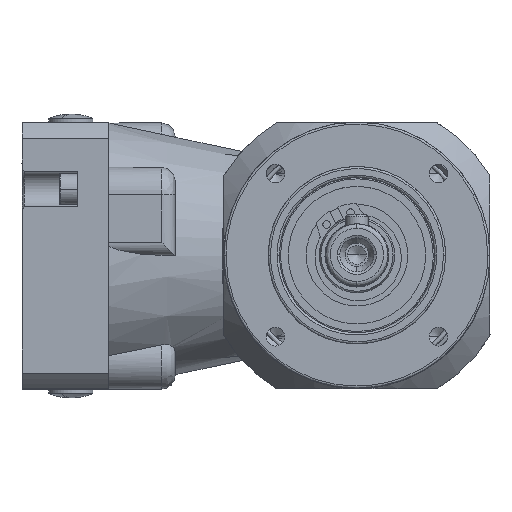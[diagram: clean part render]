
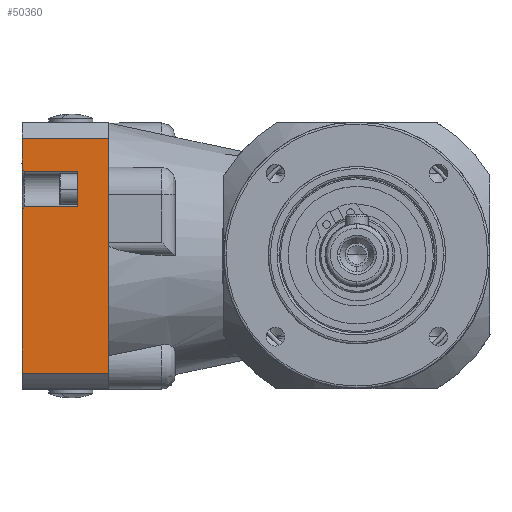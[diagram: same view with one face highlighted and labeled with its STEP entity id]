
A CAD part, top view. The second image highlights one B-rep face of the part: STEP entity #50360.
In plain terms, the highlighted planar face has unit normal (0, 0, 1).
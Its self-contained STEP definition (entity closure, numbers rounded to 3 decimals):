
#433 = LINE ( 'NONE', #28364, #55702 ) ;
#1842 = CARTESIAN_POINT ( 'NONE',  ( -75.5, 0., -58.5 ) ) ;
#1981 = LINE ( 'NONE', #52413, #30857 ) ;
#2392 = CARTESIAN_POINT ( 'NONE',  ( -56., -26.458, -58.5 ) ) ;
#2701 = DIRECTION ( 'NONE',  ( -1., 0., 0. ) ) ;
#3171 = EDGE_LOOP ( 'NONE', ( #61336, #18099, #70471, #9329, #20012, #49304, #71683, #36668, #40348, #69643 ) ) ;
#3478 = DIRECTION ( 'NONE',  ( 0., -1., 0. ) ) ;
#3892 = CARTESIAN_POINT ( 'NONE',  ( -63., -26.458, -58.5 ) ) ;
#6152 = CARTESIAN_POINT ( 'NONE',  ( -75.5, 10.5, -58.5 ) ) ;
#6555 = LINE ( 'NONE', #1842, #49309 ) ;
#6849 = VERTEX_POINT ( 'NONE', #15756 ) ;
#9272 = EDGE_CURVE ( 'NONE', #39839, #6849, #36592, .T. ) ;
#9329 = ORIENTED_EDGE ( 'NONE', *, *, #37845, .F. ) ;
#9661 = CARTESIAN_POINT ( 'NONE',  ( -75.5, 10.5, -58.5 ) ) ;
#10880 = EDGE_CURVE ( 'NONE', #64820, #39839, #433, .T. ) ;
#11886 = CARTESIAN_POINT ( 'NONE',  ( -75.5, -26.458, -58.5 ) ) ;
#12379 = LINE ( 'NONE', #29851, #66044 ) ;
#12940 = VECTOR ( 'NONE', #27451, 1000. ) ;
#14399 = CARTESIAN_POINT ( 'NONE',  ( -63., 11., -58.5 ) ) ;
#15632 = VERTEX_POINT ( 'NONE', #44989 ) ;
#15756 = CARTESIAN_POINT ( 'NONE',  ( -63., 19., -58.5 ) ) ;
#15823 = CARTESIAN_POINT ( 'NONE',  ( -56., 26.458, -58.5 ) ) ;
#17786 = DIRECTION ( 'NONE',  ( -0.707, 0.707, 0. ) ) ;
#18099 = ORIENTED_EDGE ( 'NONE', *, *, #30189, .F. ) ;
#18362 = VECTOR ( 'NONE', #3478, 1000. ) ;
#20012 = ORIENTED_EDGE ( 'NONE', *, *, #9272, .F. ) ;
#22203 = VECTOR ( 'NONE', #27513, 1000. ) ;
#24519 = PLANE ( 'NONE',  #57080 ) ;
#27451 = DIRECTION ( 'NONE',  ( 1., 0., 0. ) ) ;
#27513 = DIRECTION ( 'NONE',  ( 0., 1., 0. ) ) ;
#27841 = EDGE_CURVE ( 'NONE', #37806, #49107, #1981, .T. ) ;
#27882 = LINE ( 'NONE', #54418, #22203 ) ;
#28364 = CARTESIAN_POINT ( 'NONE',  ( -75.5, 11., -58.5 ) ) ;
#28497 = EDGE_CURVE ( 'NONE', #34393, #64820, #59431, .T. ) ;
#29851 = CARTESIAN_POINT ( 'NONE',  ( -75.5, 19., -58.5 ) ) ;
#30189 = EDGE_CURVE ( 'NONE', #43861, #15632, #27882, .T. ) ;
#30363 = DIRECTION ( 'NONE',  ( 0., 0., -1. ) ) ;
#30717 = CARTESIAN_POINT ( 'NONE',  ( -75.5, -26.458, -58.5 ) ) ;
#30857 = VECTOR ( 'NONE', #2701, 1000. ) ;
#30901 = EDGE_CURVE ( 'NONE', #15632, #48599, #54343, .T. ) ;
#31827 = DIRECTION ( 'NONE',  ( 0.707, 0.707, 0. ) ) ;
#32551 = CARTESIAN_POINT ( 'NONE',  ( -75.5, 26.458, -58.5 ) ) ;
#34366 = VERTEX_POINT ( 'NONE', #49715 ) ;
#34393 = VERTEX_POINT ( 'NONE', #6152 ) ;
#34527 = LINE ( 'NONE', #67552, #53303 ) ;
#34574 = DIRECTION ( 'NONE',  ( -1., 0., 0. ) ) ;
#35792 = CARTESIAN_POINT ( 'NONE',  ( -56., -26.458, -58.5 ) ) ;
#36239 = DIRECTION ( 'NONE',  ( 0., 1., 0. ) ) ;
#36592 = LINE ( 'NONE', #3892, #52069 ) ;
#36668 = ORIENTED_EDGE ( 'NONE', *, *, #40850, .F. ) ;
#37806 = VERTEX_POINT ( 'NONE', #35792 ) ;
#37845 = EDGE_CURVE ( 'NONE', #6849, #34366, #12379, .T. ) ;
#39839 = VERTEX_POINT ( 'NONE', #14399 ) ;
#40348 = ORIENTED_EDGE ( 'NONE', *, *, #27841, .F. ) ;
#40850 = EDGE_CURVE ( 'NONE', #49107, #34393, #6555, .T. ) ;
#41625 = VECTOR ( 'NONE', #31827, 1000. ) ;
#42663 = EDGE_CURVE ( 'NONE', #48599, #37806, #46329, .T. ) ;
#43861 = VERTEX_POINT ( 'NONE', #58821 ) ;
#44539 = EDGE_CURVE ( 'NONE', #34366, #43861, #34527, .T. ) ;
#44989 = CARTESIAN_POINT ( 'NONE',  ( -75.5, 26.458, -58.5 ) ) ;
#45786 = DIRECTION ( 'NONE',  ( 1., 0., 0. ) ) ;
#46329 = LINE ( 'NONE', #2392, #18362 ) ;
#48599 = VERTEX_POINT ( 'NONE', #15823 ) ;
#49107 = VERTEX_POINT ( 'NONE', #11886 ) ;
#49304 = ORIENTED_EDGE ( 'NONE', *, *, #10880, .F. ) ;
#49309 = VECTOR ( 'NONE', #67183, 1000. ) ;
#49628 = CARTESIAN_POINT ( 'NONE',  ( -75., 11., -58.5 ) ) ;
#49715 = CARTESIAN_POINT ( 'NONE',  ( -75., 19., -58.5 ) ) ;
#50360 = ADVANCED_FACE ( 'NONE', ( #63713 ), #24519, .F. ) ;
#52069 = VECTOR ( 'NONE', #36239, 1000. ) ;
#52413 = CARTESIAN_POINT ( 'NONE',  ( -75.5, -26.458, -58.5 ) ) ;
#53303 = VECTOR ( 'NONE', #17786, 1000. ) ;
#54343 = LINE ( 'NONE', #32551, #12940 ) ;
#54418 = CARTESIAN_POINT ( 'NONE',  ( -75.5, 0., -58.5 ) ) ;
#55702 = VECTOR ( 'NONE', #45786, 1000. ) ;
#57080 = AXIS2_PLACEMENT_3D ( 'NONE', #30717, #30363, #68806 ) ;
#58821 = CARTESIAN_POINT ( 'NONE',  ( -75.5, 19.5, -58.5 ) ) ;
#59431 = LINE ( 'NONE', #9661, #41625 ) ;
#61336 = ORIENTED_EDGE ( 'NONE', *, *, #30901, .F. ) ;
#63713 = FACE_OUTER_BOUND ( 'NONE', #3171, .T. ) ;
#64820 = VERTEX_POINT ( 'NONE', #49628 ) ;
#66044 = VECTOR ( 'NONE', #34574, 1000. ) ;
#67183 = DIRECTION ( 'NONE',  ( 0., 1., 0. ) ) ;
#67552 = CARTESIAN_POINT ( 'NONE',  ( -75., 19., -58.5 ) ) ;
#68806 = DIRECTION ( 'NONE',  ( -1., 0., 0. ) ) ;
#69643 = ORIENTED_EDGE ( 'NONE', *, *, #42663, .F. ) ;
#70471 = ORIENTED_EDGE ( 'NONE', *, *, #44539, .F. ) ;
#71683 = ORIENTED_EDGE ( 'NONE', *, *, #28497, .F. ) ;
